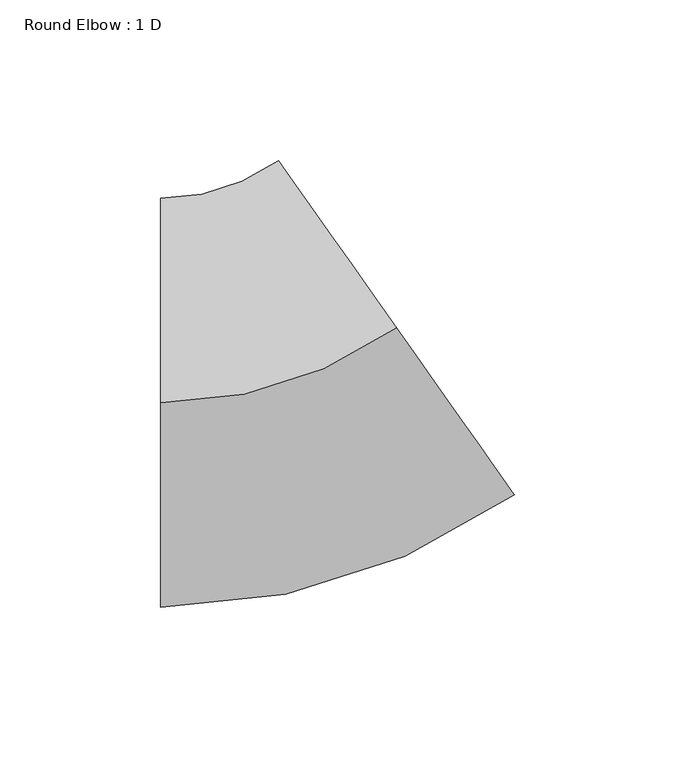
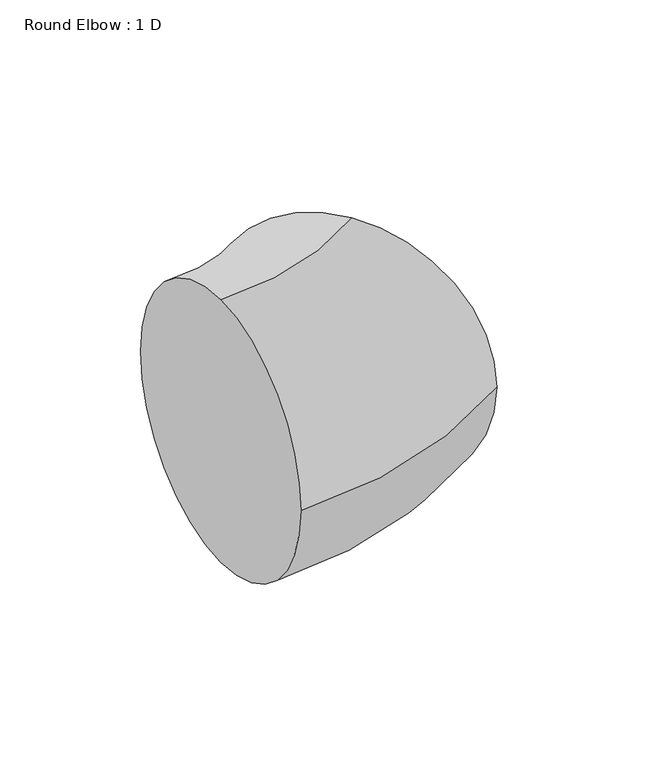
"""IFC4 building model written with IfcOpenShell, lengths in millimetres: duct fitting geometry, Round Elbow : 1 D."""

from ifc_helpers import new_model, si_unit, point, frame, origin, place, context, project, spatial, circle_curve, ellipse_curve, trimmed, source, transform, mapped, element, save
from ifc_brep_helpers import plane_surface, revolved_surface, advanced_brep


def round_elbow_1_d_bb13c7cb(model_context):
    return source(origin(), model_context, "Body", "AdvancedBrep", [
        advanced_brep(
        [(-40.3244735, 0.0, 63.5), (-40.3244735, 63.5, 0.0), (-40.3244735, 0.0, -63.5), (-40.3244735, -63.5, 0.0), (32.9383955, 23.2620994, 63.5), (69.56983, -28.6068509, 0.0), (32.9383955, 23.2620994, -63.5), (-3.693039, 75.1310497, 0.0)],
        [
            (0, 1, circle_curve(frame((-40.3244735, 0.0, 0.0), z_axis=(-1.0, 0.0, 0.0), x_axis=(0.0, 1.0, 0.0)), 63.5)),
            (1, 2, circle_curve(frame((-40.3244735, 0.0, 0.0), z_axis=(-1.0, 0.0, 0.0), x_axis=(0.0, 1.0, 0.0)), 63.5)),
            (2, 3, circle_curve(frame((-40.3244735, 0.0, 0.0), z_axis=(-1.0, 0.0, 0.0), x_axis=(0.0, 1.0, 0.0)), 63.5)),
            (3, 0, circle_curve(frame((-40.3244735, 0.0, 0.0), z_axis=(-1.0, 0.0, 0.0), x_axis=(0.0, 1.0, 0.0)), 63.5)),
            (4, 5, circle_curve(frame((32.9383955, 23.2620994, 0.0), z_axis=(0.8168338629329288, 0.5768729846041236, 0.0), x_axis=(-0.5768729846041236, 0.8168338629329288, 0.0)), 63.5)),
            (5, 6, circle_curve(frame((32.9383955, 23.2620994, 0.0), z_axis=(0.8168338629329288, 0.5768729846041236, 0.0), x_axis=(-0.5768729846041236, 0.8168338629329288, 0.0)), 63.5)),
            (6, 7, circle_curve(frame((32.9383955, 23.2620994, 0.0), z_axis=(0.8168338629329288, 0.5768729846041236, 0.0), x_axis=(-0.5768729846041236, 0.8168338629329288, 0.0)), 63.5)),
            (7, 4, circle_curve(frame((32.9383955, 23.2620994, 0.0), z_axis=(0.8168338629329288, 0.5768729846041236, 0.0), x_axis=(-0.5768729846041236, 0.8168338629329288, 0.0)), 63.5)),
            (7, 1, circle_curve(frame((-40.3244735, 127.0, 0.0), z_axis=(0.0, 0.0, -1.0), x_axis=(0.0, -1.0, 0.0)), 63.5)),
            (0, 4, circle_curve(frame((-40.3244735, 127.0, 63.5), z_axis=(0.0, 0.0, 1.0), x_axis=(0.0, -1.0, 0.0)), 127.0)),
            (6, 2, circle_curve(frame((-40.3244735, 127.0, -63.5), z_axis=(0.0, 0.0, -1.0), x_axis=(0.0, -1.0, 0.0)), 127.0)),
            (5, 3, circle_curve(frame((-40.3244735, 127.0, 0.0), z_axis=(0.0, 0.0, -1.0), x_axis=(0.0, -1.0, 0.0)), 190.5)),
        ],
        [
            plane_surface(frame((-40.3244735, 0.0, 0.0), z_axis=(-1.0, 0.0, 0.0), x_axis=(0.0, 0.0, 1.0))),
            plane_surface(frame((32.9383955, 23.2620994, 0.0), z_axis=(0.8168338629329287, 0.5768729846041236, 0.0), x_axis=(0.0, 0.0, 1.0))),
            revolved_surface(trimmed(ellipse_curve(frame((-40.3244735, 0.0, 0.0), z_axis=(-1.0, 0.0, 0.0), x_axis=(0.0, 1.0, 0.0)), 63.5, 63.5), [point((-40.3244735, 0.0, 63.5))], [point((-40.3244735, 63.5, 0.0))], True, "CARTESIAN"), (-40.3244735, 127.0, 0.0), (0.0, 0.0, 1.0)),
            revolved_surface(trimmed(ellipse_curve(frame((-40.3244735, 0.0, 0.0), z_axis=(-1.0, 0.0, 0.0), x_axis=(0.0, 1.0, 0.0)), 63.5, 63.5), [point((-40.3244735, 63.5, 0.0))], [point((-40.3244735, 0.0, -63.5))], True, "CARTESIAN"), (-40.3244735, 127.0, 0.0), (0.0, 0.0, 1.0)),
            revolved_surface(trimmed(ellipse_curve(frame((-40.3244735, 0.0, 0.0), z_axis=(-1.0, 0.0, 0.0), x_axis=(0.0, 1.0, 0.0)), 63.5, 63.5), [point((-40.3244735, 0.0, -63.5))], [point((-40.3244735, -63.5, 0.0))], True, "CARTESIAN"), (-40.3244735, 127.0, 0.0), (0.0, 0.0, 1.0)),
            revolved_surface(trimmed(ellipse_curve(frame((-40.3244735, 0.0, 0.0), z_axis=(-1.0, 0.0, 0.0), x_axis=(0.0, 1.0, 0.0)), 63.5, 63.5), [point((-40.3244735, -63.5, 0.0))], [point((-40.3244735, 0.0, 63.5))], True, "CARTESIAN"), (-40.3244735, 127.0, 0.0), (0.0, 0.0, 1.0)),
        ],
        [
            (0, [[1, 2, 3, 4]]),
            (1, [[5, 6, 7, 8]]),
            (2, [[9, -1, 10, -8]]),
            (3, [[11, -2, -9, -7]]),
            (4, [[12, -3, -11, -6]]),
            (5, [[-10, -4, -12, -5]]),
        ],
    ),
    ])


if __name__ == "__main__":
    model = new_model("IFC4")
    model_context = context("Model", 3, world=origin())
    ifc_project = project(units=[si_unit("LENGTHUNIT", "METRE", prefix="MILLI")], contexts=[model_context])
    site = spatial("IfcSite", under=ifc_project)
    building = spatial("IfcBuilding", under=site)
    placement = place(None, origin())
    round_elbow_1_d_shape = round_elbow_1_d_bb13c7cb(model_context)
    element("IfcDuctFitting", 1, ObjectType="Round Elbow : 1 D", at=placement, inside=building, context=model_context, shape_type="MappedRepresentation", body=[
        mapped(round_elbow_1_d_shape, transform((0.0, 0.0, 0.0), x_axis=(1.0, 0.0, 0.0), y_axis=(0.0, 1.0, 0.0), z_axis=(0.0, 0.0, 1.0))),
    ])
    save(model, "model.ifc")
